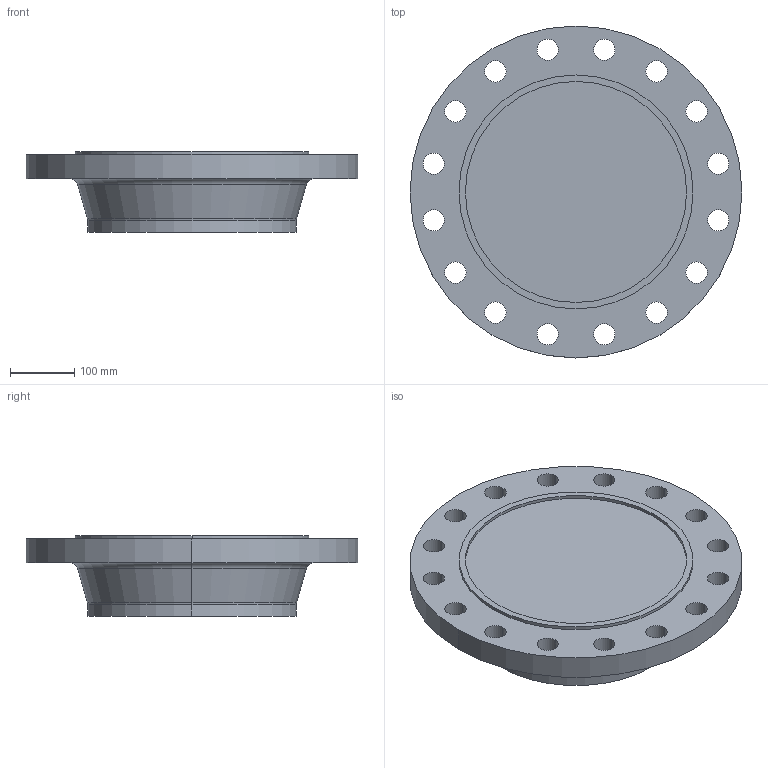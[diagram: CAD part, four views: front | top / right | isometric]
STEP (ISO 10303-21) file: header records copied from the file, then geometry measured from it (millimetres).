
FILE_DESCRIPTION (( 'STEP AP214' ), '1' );
FILE_NAME ('PN40 DN300 Type 21(ii) - Type C Face.STEP', '2019-01-05T18:59:35', ( '' ), ( '' ), 'SwSTEP 2.0', 'SolidWorks 2019', '' );
FILE_SCHEMA (( 'AUTOMOTIVE_DESIGN' ));
Length unit declared in the file: millimetre
Products named in the file (1): PN40 DN300 Type 21(ii) - Type C Face
Bounding box: 515 x 515 x 125 mm (x, y, z)
Volume: 14714248.4 mm3; surface area: 590055.7 mm2
Topology: 1 solids, 1 shells, 51 faces, 132 edges, 86 vertices
Faces by surface type: cylinder 40, plane 5, torus 4, cone 2
Entity records: 1706 total; most frequent: DIRECTION 326, CARTESIAN_POINT 270, ORIENTED_EDGE 264, AXIS2_PLACEMENT_3D 142, EDGE_CURVE 132, CIRCLE 90, VERTEX_POINT 86, EDGE_LOOP 86
